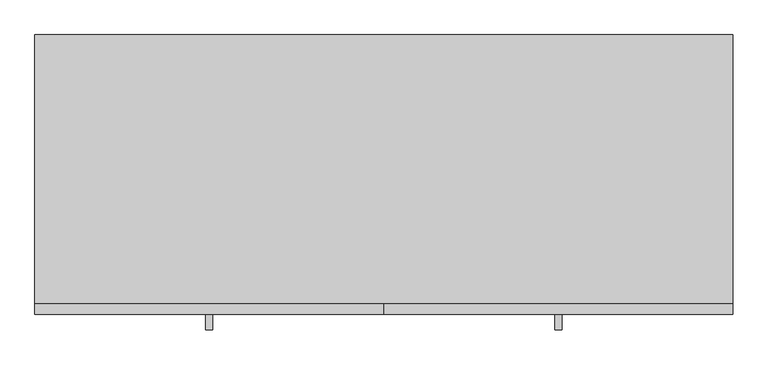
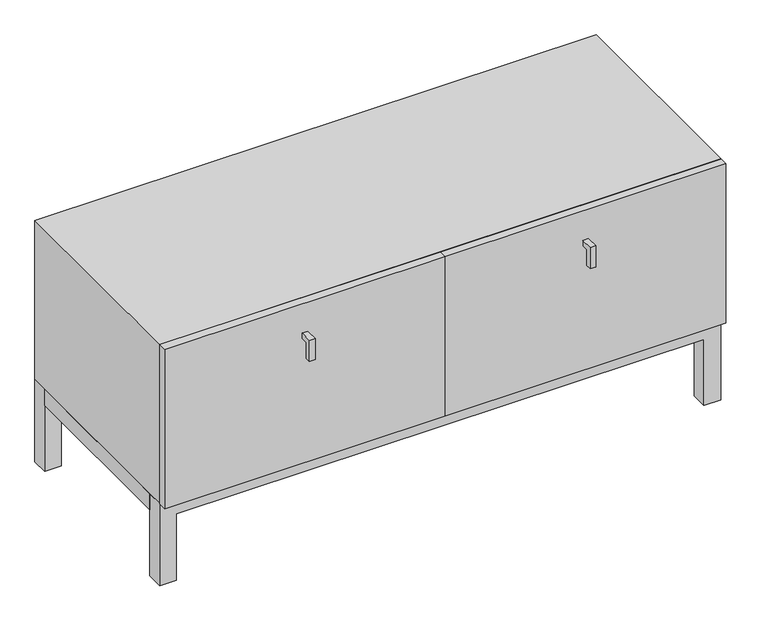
"""IFC4 building model written with IfcOpenShell, lengths in millimetres: furniture geometry, IKEA_low_level_drawer_unit_6409.0001 : IKEA_low_level_drawer_unit_6409.0001."""

from ifc_helpers import new_model, si_unit, frame, origin, place, context, project, spatial, polyline, outline, extrude, source, transform, mapped, element, save


def furniture_0215fc4d(model_context):
    return source(origin(), model_context, "Body", "SweptSolid", [
        extrude(outline(polyline([(500.0, 355.0), (500.0, 30.0), (470.0, 30.0), (470.0, 355.0), (500.0, 355.0)])), frame((0.0, 0.0, 125.0), z_axis=(0.0, 0.0, 1.0), x_axis=(1.0, 0.0, 0.0)), (0.0, 0.0, 1.0), 30.0),
        extrude(outline(polyline([(-500.0, 30.0), (-500.0, 355.0), (-470.0, 355.0), (-470.0, 30.0), (-500.0, 30.0)])), frame((0.0, 0.0, 125.0), z_axis=(0.0, 0.0, 1.0), x_axis=(1.0, 0.0, 0.0)), (0.0, 0.0, 1.0), 30.0),
        extrude(outline(polyline([(-16.0, 400.0), (-16.0, 390.0), (-28.0, 390.0), (-28.0, 360.0), (-38.0, 360.0), (-38.0, 400.0), (-16.0, 400.0)])), frame((-255.0, 0.0, 0.0), z_axis=(1.0, 0.0, 0.0), x_axis=(0.0, 1.0, 0.0)), (0.0, 0.0, 1.0), 10.0),
        extrude(outline(polyline([(-16.0, 400.0), (-16.0, 390.0), (-28.0, 390.0), (-28.0, 360.0), (-38.0, 360.0), (-38.0, 400.0), (-16.0, 400.0)])), frame((245.0, 0.0, 0.0), z_axis=(1.0, 0.0, 0.0), x_axis=(0.0, 1.0, 0.0)), (0.0, 0.0, 1.0), 10.0),
        extrude(outline(polyline([(0.0, -1.0), (500.0, -1.0), (500.0, -16.0), (0.0, -16.0), (0.0, -1.0)])), frame((0.0, 0.0, 155.0), z_axis=(0.0, 0.0, 1.0), x_axis=(1.0, 0.0, 0.0)), (0.0, 0.0, 1.0), 300.0),
        extrude(outline(polyline([(0.0, -1.0), (0.0, -16.0), (-500.0, -16.0), (-500.0, -1.0), (0.0, -1.0)])), frame((0.0, 0.0, 155.0), z_axis=(0.0, 0.0, 1.0), x_axis=(1.0, 0.0, 0.0)), (0.0, 0.0, 1.0), 300.0),
        extrude(outline(polyline([(0.0, -500.0), (0.0, -470.0), (125.0, -470.0), (125.0, 470.0), (0.0, 470.0), (0.0, 500.0), (155.0, 500.0), (155.0, -500.0), (0.0, -500.0)])), frame((0.0, 355.0, 0.0), z_axis=(0.0, 1.0, 0.0), x_axis=(0.0, 0.0, 1.0)), (0.0, 0.0, 1.0), 30.0),
        extrude(outline(polyline([(0.0, -500.0), (0.0, -470.0), (125.0, -470.0), (125.0, 470.0), (0.0, 470.0), (0.0, 500.0), (155.0, 500.0), (155.0, -500.0), (0.0, -500.0)])), frame((0.0, 0.0, 0.0), z_axis=(0.0, 1.0, 0.0), x_axis=(0.0, 0.0, 1.0)), (0.0, 0.0, 1.0), 30.0),
        extrude(outline(polyline([(500.0, 0.0), (-500.0, 0.0), (-500.0, 385.0), (500.0, 385.0), (500.0, 0.0)])), frame((0.0, 0.0, 155.0), z_axis=(0.0, 0.0, 1.0), x_axis=(1.0, 0.0, 0.0)), (0.0, 0.0, 1.0), 300.0),
    ])


if __name__ == "__main__":
    model = new_model("IFC4")
    model_context = context("Model", 3, world=origin())
    ifc_project = project(units=[si_unit("LENGTHUNIT", "METRE", prefix="MILLI")], contexts=[model_context])
    site = spatial("IfcSite", under=ifc_project)
    building = spatial("IfcBuilding", under=site)
    placement = place(None, origin())
    furniture_shape = furniture_0215fc4d(model_context)
    element("IfcFurniture", 1, ObjectType="IKEA_low_level_drawer_unit_6409.0001 : IKEA_low_level_drawer_unit_6409.0001", at=placement, inside=building, context=model_context, shape_type="MappedRepresentation", body=[
        mapped(furniture_shape, transform((0.0, 0.0, 0.0), x_axis=(1.0, 0.0, 0.0), y_axis=(0.0, 1.0, 0.0), z_axis=(0.0, 0.0, 1.0))),
    ])
    save(model, "model.ifc")
